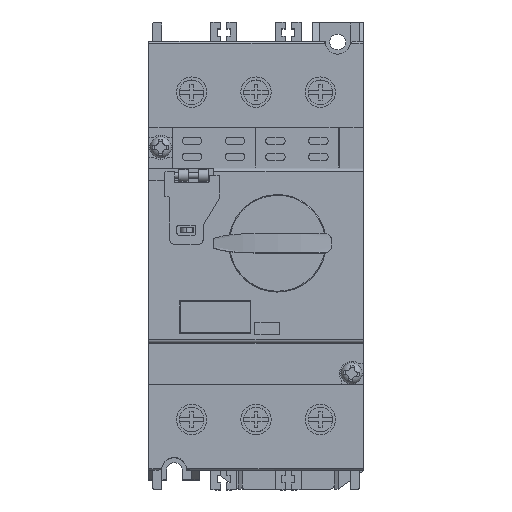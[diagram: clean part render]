
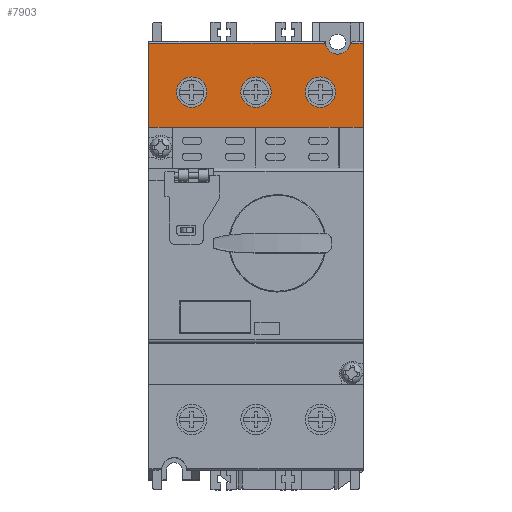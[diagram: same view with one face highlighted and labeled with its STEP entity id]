
A CAD part, top view. The second image highlights one B-rep face of the part: STEP entity #7903.
In plain terms, the highlighted planar face has unit normal (0, 0, 1).
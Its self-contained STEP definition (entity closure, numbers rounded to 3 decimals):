
#805 = CARTESIAN_POINT ( 'NONE',  ( 17.736, 54.499, 9.5 ) ) ;
#943 = CARTESIAN_POINT ( 'NONE',  ( -27.5, 33., 9.5 ) ) ;
#1286 = CIRCLE ( 'NONE', #15756, 1. ) ;
#1356 = DIRECTION ( 'NONE',  ( 1., 0., 0. ) ) ;
#1444 = VECTOR ( 'NONE', #24950, 1000. ) ;
#1829 = ORIENTED_EDGE ( 'NONE', *, *, #22763, .T. ) ;
#1948 = CARTESIAN_POINT ( 'NONE',  ( -27.5, 33., 9.5 ) ) ;
#2013 = LINE ( 'NONE', #35532, #11529 ) ;
#2065 = VERTEX_POINT ( 'NONE', #34629 ) ;
#3034 = VECTOR ( 'NONE', #36595, 1000. ) ;
#3063 = CARTESIAN_POINT ( 'NONE',  ( -27.5, 54.499, 9.5 ) ) ;
#3074 = CARTESIAN_POINT ( 'NONE',  ( -27.5, 54.499, 9.5 ) ) ;
#3178 = DIRECTION ( 'NONE',  ( 1., 0., 0. ) ) ;
#3376 = EDGE_LOOP ( 'NONE', ( #27494 ) ) ;
#3694 = ORIENTED_EDGE ( 'NONE', *, *, #4145, .T. ) ;
#4145 = EDGE_CURVE ( 'NONE', #11297, #4344, #4759, .T. ) ;
#4344 = VERTEX_POINT ( 'NONE', #26337 ) ;
#4759 = LINE ( 'NONE', #943, #19649 ) ;
#5184 = DIRECTION ( 'NONE',  ( 0., 0., 1. ) ) ;
#5259 = AXIS2_PLACEMENT_3D ( 'NONE', #10838, #7000, #3178 ) ;
#5338 = EDGE_LOOP ( 'NONE', ( #14625 ) ) ;
#5785 = LINE ( 'NONE', #1948, #15615 ) ;
#5851 = CIRCLE ( 'NONE', #32683, 3.9 ) ;
#5859 = VERTEX_POINT ( 'NONE', #32740 ) ;
#5940 = VERTEX_POINT ( 'NONE', #16523 ) ;
#6893 = LINE ( 'NONE', #3074, #3034 ) ;
#7000 = DIRECTION ( 'NONE',  ( 0., 0., 1. ) ) ;
#7903 = ADVANCED_FACE ( 'NONE', ( #17834, #14529, #13797, #13739 ), #14559, .T. ) ;
#8321 = ORIENTED_EDGE ( 'NONE', *, *, #28254, .T. ) ;
#10223 = DIRECTION ( 'NONE',  ( 1., 0., 0. ) ) ;
#10838 = CARTESIAN_POINT ( 'NONE',  ( -16.5, 42., 9.5 ) ) ;
#11285 = ORIENTED_EDGE ( 'NONE', *, *, #18109, .F. ) ;
#11297 = VERTEX_POINT ( 'NONE', #18778 ) ;
#11394 = LINE ( 'NONE', #29566, #30244 ) ;
#11529 = VECTOR ( 'NONE', #31704, 1000. ) ;
#11750 = EDGE_CURVE ( 'NONE', #11828, #28803, #16603, .T. ) ;
#11828 = VERTEX_POINT ( 'NONE', #35669 ) ;
#13113 = EDGE_CURVE ( 'NONE', #27971, #28803, #16699, .T. ) ;
#13739 = FACE_BOUND ( 'NONE', #5338, .T. ) ;
#13797 = FACE_BOUND ( 'NONE', #3376, .T. ) ;
#14055 = DIRECTION ( 'NONE',  ( 0., 0., 1. ) ) ;
#14230 = AXIS2_PLACEMENT_3D ( 'NONE', #3063, #36582, #32728 ) ;
#14529 = FACE_BOUND ( 'NONE', #26384, .T. ) ;
#14559 = PLANE ( 'NONE',  #14230 ) ;
#14625 = ORIENTED_EDGE ( 'NONE', *, *, #20822, .F. ) ;
#15057 = EDGE_CURVE ( 'NONE', #5940, #5859, #5785, .T. ) ;
#15076 = ORIENTED_EDGE ( 'NONE', *, *, #16870, .T. ) ;
#15615 = VECTOR ( 'NONE', #35461, 1000. ) ;
#15756 = AXIS2_PLACEMENT_3D ( 'NONE', #35152, #31340, #27516 ) ;
#16076 = CARTESIAN_POINT ( 'NONE',  ( 17.841, 54.235, 9.5 ) ) ;
#16523 = CARTESIAN_POINT ( 'NONE',  ( 21.5, 33., 9.5 ) ) ;
#16603 = CIRCLE ( 'NONE', #26781, 1. ) ;
#16621 = EDGE_CURVE ( 'NONE', #11828, #19902, #6893, .T. ) ;
#16699 = CIRCLE ( 'NONE', #27343, 3.25 ) ;
#16778 = AXIS2_PLACEMENT_3D ( 'NONE', #21687, #14055, #10223 ) ;
#16845 = VERTEX_POINT ( 'NONE', #805 ) ;
#16870 = EDGE_CURVE ( 'NONE', #2065, #11297, #11394, .T. ) ;
#17618 = CIRCLE ( 'NONE', #16778, 3.9 ) ;
#17834 = FACE_OUTER_BOUND ( 'NONE', #21558, .T. ) ;
#18109 = EDGE_CURVE ( 'NONE', #29071, #29071, #5851, .T. ) ;
#18778 = CARTESIAN_POINT ( 'NONE',  ( -27.5, 33., 9.5 ) ) ;
#19649 = VECTOR ( 'NONE', #34476, 1000. ) ;
#19902 = VERTEX_POINT ( 'NONE', #22882 ) ;
#19917 = CIRCLE ( 'NONE', #5259, 3.9 ) ;
#20822 = EDGE_CURVE ( 'NONE', #28187, #28187, #17618, .T. ) ;
#21558 = EDGE_LOOP ( 'NONE', ( #24920, #31989, #36394, #8321, #21707, #15076, #3694, #1829, #22242, #23314 ) ) ;
#21687 = CARTESIAN_POINT ( 'NONE',  ( 0., 42., 9.5 ) ) ;
#21707 = ORIENTED_EDGE ( 'NONE', *, *, #23470, .F. ) ;
#21762 = EDGE_CURVE ( 'NONE', #19902, #5859, #2013, .T. ) ;
#22242 = ORIENTED_EDGE ( 'NONE', *, *, #15057, .T. ) ;
#22763 = EDGE_CURVE ( 'NONE', #4344, #5940, #36034, .T. ) ;
#22882 = CARTESIAN_POINT ( 'NONE',  ( 27.5, 54.499, 9.5 ) ) ;
#23314 = ORIENTED_EDGE ( 'NONE', *, *, #21762, .F. ) ;
#23470 = EDGE_CURVE ( 'NONE', #2065, #16845, #32576, .T. ) ;
#24353 = CARTESIAN_POINT ( 'NONE',  ( 3.9, 42., 9.5 ) ) ;
#24920 = ORIENTED_EDGE ( 'NONE', *, *, #16621, .F. ) ;
#24950 = DIRECTION ( 'NONE',  ( 1., 0., 0. ) ) ;
#25268 = CARTESIAN_POINT ( 'NONE',  ( 20.4, 42., 9.5 ) ) ;
#25793 = DIRECTION ( 'NONE',  ( 0., -1., 0. ) ) ;
#26018 = DIRECTION ( 'NONE',  ( 1., 0., 0. ) ) ;
#26337 = CARTESIAN_POINT ( 'NONE',  ( -21.5, 33., 9.5 ) ) ;
#26384 = EDGE_LOOP ( 'NONE', ( #11285 ) ) ;
#26781 = AXIS2_PLACEMENT_3D ( 'NONE', #33635, #29805, #26018 ) ;
#27343 = AXIS2_PLACEMENT_3D ( 'NONE', #28132, #5184, #1356 ) ;
#27494 = ORIENTED_EDGE ( 'NONE', *, *, #35642, .F. ) ;
#27516 = DIRECTION ( 'NONE',  ( 1., 0., 0. ) ) ;
#27971 = VERTEX_POINT ( 'NONE', #16076 ) ;
#28132 = CARTESIAN_POINT ( 'NONE',  ( 21., 55., 9.5 ) ) ;
#28187 = VERTEX_POINT ( 'NONE', #24353 ) ;
#28254 = EDGE_CURVE ( 'NONE', #27971, #16845, #1286, .T. ) ;
#28374 = DIRECTION ( 'NONE',  ( 1., 0., 0. ) ) ;
#28382 = DIRECTION ( 'NONE',  ( 1., 0., 0. ) ) ;
#28404 = CARTESIAN_POINT ( 'NONE',  ( -12.6, 42., 9.5 ) ) ;
#28770 = CARTESIAN_POINT ( 'NONE',  ( -27.5, 54.499, 9.5 ) ) ;
#28803 = VERTEX_POINT ( 'NONE', #32609 ) ;
#29071 = VERTEX_POINT ( 'NONE', #25268 ) ;
#29566 = CARTESIAN_POINT ( 'NONE',  ( -27.5, 54.499, 9.5 ) ) ;
#29805 = DIRECTION ( 'NONE',  ( 0., 0., 1. ) ) ;
#30244 = VECTOR ( 'NONE', #25793, 1000. ) ;
#31340 = DIRECTION ( 'NONE',  ( 0., 0., 1. ) ) ;
#31704 = DIRECTION ( 'NONE',  ( 0., -1., 0. ) ) ;
#31989 = ORIENTED_EDGE ( 'NONE', *, *, #11750, .T. ) ;
#32171 = DIRECTION ( 'NONE',  ( 0., 0., 1. ) ) ;
#32179 = CARTESIAN_POINT ( 'NONE',  ( -27.5, 33., 9.5 ) ) ;
#32198 = VERTEX_POINT ( 'NONE', #28404 ) ;
#32576 = LINE ( 'NONE', #28770, #1444 ) ;
#32609 = CARTESIAN_POINT ( 'NONE',  ( 24.159, 54.235, 9.5 ) ) ;
#32683 = AXIS2_PLACEMENT_3D ( 'NONE', #36021, #32171, #28374 ) ;
#32728 = DIRECTION ( 'NONE',  ( 1., 0., 0. ) ) ;
#32740 = CARTESIAN_POINT ( 'NONE',  ( 27.5, 33., 9.5 ) ) ;
#33635 = CARTESIAN_POINT ( 'NONE',  ( 25.131, 54., 9.5 ) ) ;
#34476 = DIRECTION ( 'NONE',  ( 1., 0., 0. ) ) ;
#34629 = CARTESIAN_POINT ( 'NONE',  ( -27.5, 54.499, 9.5 ) ) ;
#35152 = CARTESIAN_POINT ( 'NONE',  ( 16.869, 54., 9.5 ) ) ;
#35154 = VECTOR ( 'NONE', #28382, 1000. ) ;
#35461 = DIRECTION ( 'NONE',  ( 1., 0., 0. ) ) ;
#35532 = CARTESIAN_POINT ( 'NONE',  ( 27.5, 54.499, 9.5 ) ) ;
#35642 = EDGE_CURVE ( 'NONE', #32198, #32198, #19917, .T. ) ;
#35669 = CARTESIAN_POINT ( 'NONE',  ( 24.264, 54.499, 9.5 ) ) ;
#36021 = CARTESIAN_POINT ( 'NONE',  ( 16.5, 42., 9.5 ) ) ;
#36034 = LINE ( 'NONE', #32179, #35154 ) ;
#36394 = ORIENTED_EDGE ( 'NONE', *, *, #13113, .F. ) ;
#36582 = DIRECTION ( 'NONE',  ( 0., 0., 1. ) ) ;
#36595 = DIRECTION ( 'NONE',  ( 1., 0., 0. ) ) ;
